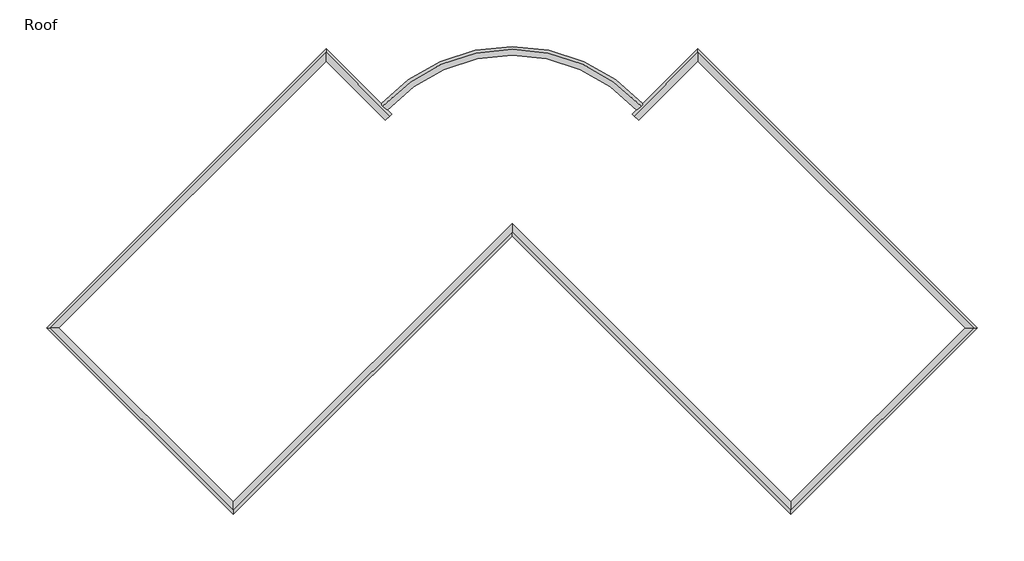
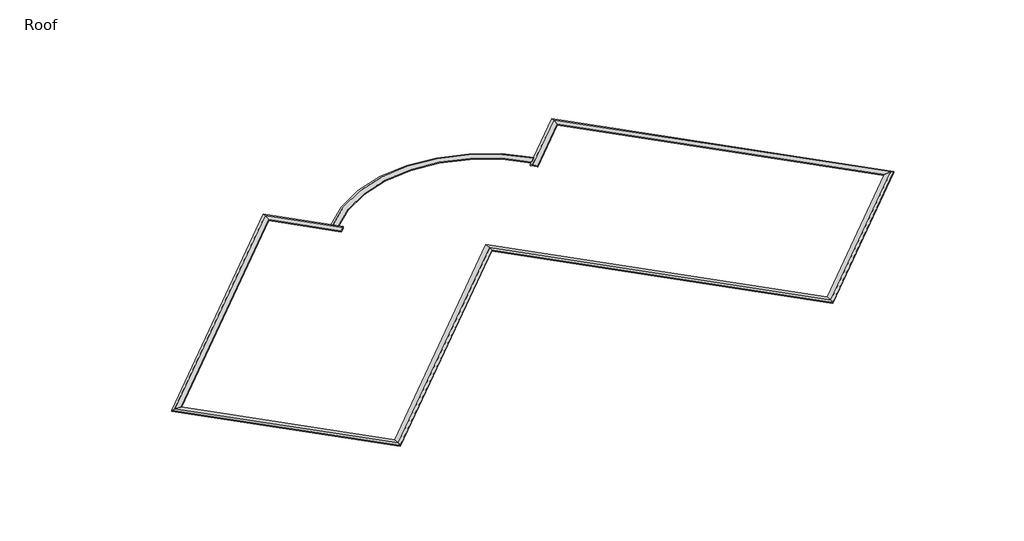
# One storey: 9 proxies.
"""IFC4 building model written with IfcOpenShell, lengths in millimetres."""

from ifc_helpers import new_model, si_unit, frame, origin, place, context, project, spatial, polyline, circle_curve, faceted_brep, element, save
from ifc_brep_helpers import plane_surface, cylinder_surface, revolved_surface, advanced_brep

model = new_model("IFC4")

# Units and contexts
model_context = context("Model", 3, world=origin())
ifc_project = project(units=[si_unit("LENGTHUNIT", "METRE", prefix="MILLI")], contexts=[model_context])

# Site, building, storey
site = spatial("IfcSite", under=ifc_project)
building = spatial("IfcBuilding", under=site)
storey = spatial("IfcBuildingStorey", under=building, Name="Roof", Elevation=3860.8)

# Proxies
placement = place(None, origin())
element("IfcBuildingElementProxy", 1, Name="Wall Sweeps", at=placement, inside=storey, context=model_context, shape_type="Brep", body=[
    faceted_brep([(4656.7887508, 1642.1670444, 4635.5), (4459.2231162, 1839.732679, 4673.6), (4369.420555, 1929.5352402, 4635.5), (4369.420555, 1929.5352402, 4572.0), (4387.3810672, 1911.574728, 4572.0), (4636.5831746, 1662.3726206, 4572.0), (4656.7887508, 1642.1670444, 4572.0), (7404.7471239, 4390.1254174, 4635.5), (7404.7471239, 4390.1254174, 4572.0), (7404.7471239, 4964.8618091, 4572.0), (7404.7471239, 4964.8618091, 4635.5), (7404.7471239, 4785.2566867, 4673.6)], [[[0, 1, 2, 3, 4, 5, 6]], [[7, 8, 9, 10, 11]], [[1, 0, 7, 11]], [[2, 1, 11, 10]], [[3, 2, 10, 9]], [[6, 5, 4, 3, 9, 8]], [[0, 6, 8, 7]]]),
])
element("IfcBuildingElementProxy", 2, Name="Wall Sweeps", at=placement, inside=storey, context=model_context, shape_type="Brep", body=[
    faceted_brep([(7404.7471239, 4390.1254174, 4635.5), (7404.7471239, 4785.2566867, 4673.6), (7404.7471239, 4964.8618091, 4635.5), (7404.7471239, 4964.8618091, 4572.0), (7404.7471239, 4390.1254174, 4572.0), (19797.500571, -8002.6280297, 4635.5), (19797.500571, -8002.6280297, 4572.0), (20372.2369627, -8002.6280297, 4572.0), (20372.2369627, -8002.6280297, 4635.5), (20192.6318403, -8002.6280297, 4673.6)], [[[0, 1, 2, 3, 4]], [[5, 6, 7, 8, 9]], [[1, 0, 5, 9]], [[2, 1, 9, 8]], [[3, 2, 8, 7]], [[4, 3, 7, 6]], [[0, 4, 6, 5]]]),
])
element("IfcBuildingElementProxy", 3, Name="Wall Sweeps", at=placement, inside=storey, context=model_context, shape_type="Brep", body=[
    faceted_brep([(19797.500571, -8002.6280297, 4635.5), (20192.6318403, -8002.6280297, 4673.6), (20372.2369627, -8002.6280297, 4635.5), (20372.2369627, -8002.6280297, 4572.0), (19797.500571, -8002.6280297, 4572.0), (11715.270062, -16084.8585386, 4635.5), (11715.270062, -16084.8585386, 4572.0), (11715.270062, -16659.5949304, 4572.0), (11715.270062, -16659.5949304, 4635.5), (11715.270062, -16479.989808, 4673.6)], [[[0, 1, 2, 3, 4]], [[5, 6, 7, 8, 9]], [[1, 0, 5, 9]], [[2, 1, 9, 8]], [[3, 2, 8, 7]], [[4, 3, 7, 6]], [[0, 4, 6, 5]]]),
])
element("IfcBuildingElementProxy", 4, Name="Wall Sweeps", at=placement, inside=storey, context=model_context, shape_type="Brep", body=[
    faceted_brep([(11715.270062, -16084.8585386, 4635.5), (11715.270062, -16479.989808, 4673.6), (11715.270062, -16659.5949304, 4635.5), (11715.270062, -16659.5949304, 4572.0), (11715.270062, -16084.8585386, 4572.0), (-1216.2987523, -3153.2897243, 4635.5), (-1216.2987523, -3153.2897243, 4572.0), (-1216.2987523, -3728.026116, 4572.0), (-1216.2987523, -3728.026116, 4635.5), (-1216.2987523, -3548.4209936, 4673.6)], [[[0, 1, 2, 3, 4]], [[5, 6, 7, 8, 9]], [[1, 0, 5, 9]], [[2, 1, 9, 8]], [[3, 2, 8, 7]], [[4, 3, 7, 6]], [[0, 4, 6, 5]]]),
])
element("IfcBuildingElementProxy", 5, Name="Wall Sweeps", at=placement, inside=storey, context=model_context, shape_type="Brep", body=[
    faceted_brep([(-1216.2987523, -3153.2897243, 4635.5), (-1216.2987523, -3548.4209936, 4673.6), (-1216.2987523, -3728.026116, 4635.5), (-1216.2987523, -3728.026116, 4572.0), (-1216.2987523, -3153.2897243, 4572.0), (-14147.8675667, -16084.8585386, 4635.5), (-14147.8675667, -16084.8585386, 4572.0), (-14147.8675667, -16659.5949304, 4572.0), (-14147.8675667, -16659.5949304, 4635.5), (-14147.8675667, -16479.989808, 4673.6)], [[[0, 1, 2, 3, 4]], [[5, 6, 7, 8, 9]], [[1, 0, 5, 9]], [[2, 1, 9, 8]], [[3, 2, 8, 7]], [[4, 3, 7, 6]], [[0, 4, 6, 5]]]),
])
element("IfcBuildingElementProxy", 6, Name="Wall Sweeps", at=placement, inside=storey, context=model_context, shape_type="Brep", body=[
    faceted_brep([(-14147.8675667, -16084.8585386, 4635.5), (-14147.8675667, -16479.989808, 4673.6), (-14147.8675667, -16659.5949304, 4635.5), (-14147.8675667, -16659.5949304, 4572.0), (-14147.8675667, -16084.8585386, 4572.0), (-22230.0980756, -8002.6280297, 4635.5), (-22230.0980756, -8002.6280297, 4572.0), (-22804.8344674, -8002.6280297, 4572.0), (-22804.8344674, -8002.6280297, 4635.5), (-22625.229345, -8002.6280297, 4673.6)], [[[0, 1, 2, 3, 4]], [[5, 6, 7, 8, 9]], [[1, 0, 5, 9]], [[2, 1, 9, 8]], [[3, 2, 8, 7]], [[4, 3, 7, 6]], [[0, 4, 6, 5]]]),
])
element("IfcBuildingElementProxy", 7, Name="Wall Sweeps", at=placement, inside=storey, context=model_context, shape_type="Brep", body=[
    faceted_brep([(-22230.0980756, -8002.6280297, 4635.5), (-22625.229345, -8002.6280297, 4673.6), (-22804.8344674, -8002.6280297, 4635.5), (-22804.8344674, -8002.6280297, 4572.0), (-22230.0980756, -8002.6280297, 4572.0), (-9837.3446286, 4390.1254174, 4635.5), (-9837.3446286, 4390.1254174, 4572.0), (-9837.3446286, 4964.8618091, 4572.0), (-9837.3446286, 4964.8618091, 4635.5), (-9837.3446286, 4785.2566867, 4673.6)], [[[0, 1, 2, 3, 4]], [[5, 6, 7, 8, 9]], [[1, 0, 5, 9]], [[2, 1, 9, 8]], [[3, 2, 8, 7]], [[4, 3, 7, 6]], [[0, 4, 6, 5]]]),
])
element("IfcBuildingElementProxy", 8, Name="Wall Sweeps", at=placement, inside=storey, context=model_context, shape_type="Brep", body=[
    faceted_brep([(-9837.3446286, 4390.1254174, 4635.5), (-9837.3446286, 4785.2566867, 4673.6), (-9837.3446286, 4964.8618091, 4635.5), (-9837.3446286, 4964.8618091, 4572.0), (-9837.3446286, 4390.1254174, 4572.0), (-7089.3862555, 1642.1670444, 4635.5), (-7089.3862555, 1642.1670444, 4572.0), (-7069.1806792, 1662.3726206, 4572.0), (-6819.9785719, 1911.574728, 4572.0), (-6802.0180596, 1929.5352402, 4572.0), (-6802.0180596, 1929.5352402, 4635.5), (-6891.8206209, 1839.732679, 4673.6)], [[[0, 1, 2, 3, 4]], [[5, 6, 7, 8, 9, 10, 11]], [[1, 0, 5, 11]], [[2, 1, 11, 10]], [[3, 2, 10, 9]], [[4, 3, 9, 8, 7, 6]], [[0, 4, 6, 5]]]),
])
element("IfcBuildingElementProxy", 9, Name="Wall Sweeps", at=placement, inside=storey, context=model_context, shape_type="AdvancedBrep", body=[
    advanced_brep(
    [(-6998.6707814, 2113.3412067, 4635.5), (-7204.5157404, 2302.265035, 4673.6), (-7298.0816308, 2388.1395023, 4635.5), (-7298.0816308, 2388.1395023, 4572.0), (-6998.6707814, 2113.3412067, 4572.0), (4566.0732768, 2113.3412067, 4635.5), (4566.0732768, 2113.3412067, 4572.0), (4865.4841262, 2388.1395023, 4572.0), (4865.4841262, 2388.1395023, 4635.5), (4771.9182357, 2302.265035, 4673.6)],
    [
        (0, 1),
        (1, 2),
        (2, 3),
        (3, 4),
        (4, 0),
        (5, 6),
        (6, 7),
        (7, 8),
        (8, 9),
        (9, 5),
        (9, 1, circle_curve(frame((-1216.2987523, -3193.7008768, 4673.6), z_axis=(0.0, 0.0, 1.0), x_axis=(-0.7367392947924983, 0.6761769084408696, 0.0)), 8128.0)),
        (0, 5, circle_curve(frame((-1216.2987523, -3193.7008768, 4635.5), z_axis=(0.0, 0.0, -1.0), x_axis=(-0.7367392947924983, 0.6761769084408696, 0.0)), 7848.6)),
        (8, 2, circle_curve(frame((-1216.2987523, -3193.7008768, 4635.5), z_axis=(0.0, 0.0, 1.0), x_axis=(-0.7367392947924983, 0.6761769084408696, 0.0)), 8255.0)),
        (7, 3, circle_curve(frame((-1216.2987523, -3193.7008768, 4572.0), z_axis=(0.0, 0.0, 1.0), x_axis=(-0.7367392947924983, 0.6761769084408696, 0.0)), 8255.0)),
        (6, 4, circle_curve(frame((-1216.2987523, -3193.7008768, 4572.0), z_axis=(0.0, 0.0, 1.0), x_axis=(-0.7367392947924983, 0.6761769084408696, 0.0)), 7848.6)),
    ],
    [
        plane_surface(frame((-1216.2987523, -3193.7008768, 4572.0), z_axis=(-0.6761769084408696, -0.7367392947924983, 0.0), x_axis=(-0.7367392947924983, 0.6761769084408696, 0.0))),
        plane_surface(frame((-1216.2987523, -3193.7008768, 4572.0), z_axis=(0.676176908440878, -0.7367392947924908, 0.0), x_axis=(0.7367392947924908, 0.676176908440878, 0.0))),
        revolved_surface(polyline([(-6998.6707814, 2113.3412067, 4635.5), (-7204.5157404, 2302.265035, 4673.6)]), (-1216.2987523, -3193.7008768, 4572.0), (0.0, 0.0, -1.0)),
        revolved_surface(polyline([(-7204.5157404, 2302.265035, 4673.6), (-7298.0816308, 2388.1395023, 4635.5)]), (-1216.2987523, -3193.7008768, 4572.0), (0.0, 0.0, -1.0)),
        cylinder_surface(frame((-1216.2987523, -3193.7008768, 4572.0), z_axis=(0.0, 0.0, -1.0), x_axis=(-0.7367392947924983, 0.6761769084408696, 0.0)), 8255.0),
        plane_surface(frame((-1216.2987523, -3193.7008768, 4572.0), z_axis=(0.0, 0.0, -1.0), x_axis=(-0.7367392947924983, 0.6761769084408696, 0.0))),
        revolved_surface(polyline([(-6998.670781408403, 2113.34120678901, 4572.0), (-6998.670781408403, 2113.34120678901, 4635.5)]), (-1216.2987523, -3193.7008768, 4572.0), (0.0, 0.0, -1.0)),
    ],
    [
        (0, [[1, 2, 3, 4, 5]]),
        (1, [[6, 7, 8, 9, 10]]),
        (2, [[11, -1, 12, -10]]),
        (3, [[13, -2, -11, -9]]),
        (4, [[14, -3, -13, -8]]),
        (5, [[15, -4, -14, -7]]),
        (6, [[-12, -5, -15, -6]]),
    ],
),
])

save(model, "model.ifc")
